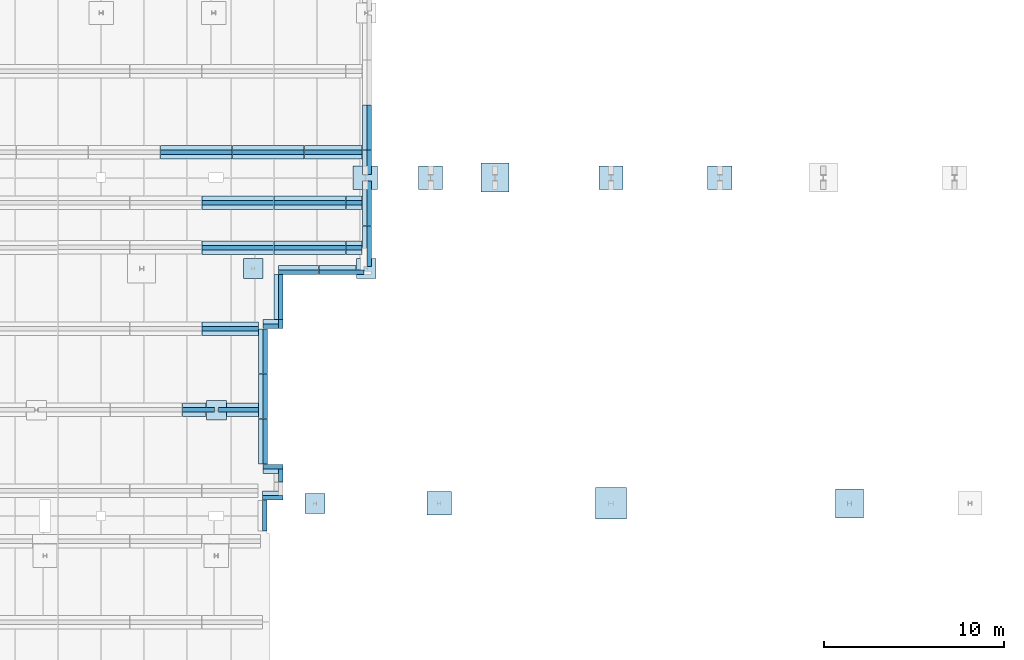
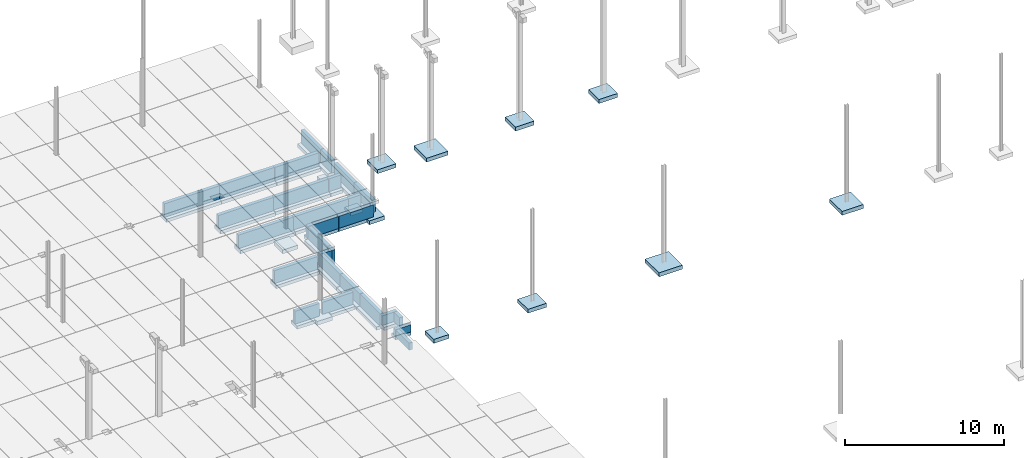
# One storey, part 11 of 59: 65 footings.
"""IFC2X3 building model written with IfcOpenShell, lengths in metres."""

import ifcopenshell
import ifcopenshell.guid

model = None  # the IFC model being written
_history = None  # IfcOwnerHistory: only IFC2X3 demands one
_inside = {}  # id of a spatial element -> (the spatial element, [elements in it])
_under = {}  # id of a project, library or spatial element -> (it, [spatial elements below it])
_declared = {}  # id of a project -> (the project, [libraries it declares])
_typed = {}  # id of a type object -> (the type object, [elements of that type])
_made_of = {}  # id of a material, layer set ... -> (it, [elements and type objects made of it])


def new_model(schema):
    """Start an empty IFC model of exactly this schema.

    Asked for "IFC4X3", IfcOpenShell would pick the latest addendum, in which some entities
    have other attributes; the version numbers below select the first issue.
    IFC2X3 requires an IfcOwnerHistory on every rooted entity: one is made here for all.
    """
    global model, _history
    if schema == "IFC4X3":
        model = ifcopenshell.file(schema_version=(4, 3, 0, 0))
    else:
        model = ifcopenshell.file(schema=schema)
    _inside.clear()
    _under.clear()
    _declared.clear()
    _typed.clear()
    _made_of.clear()
    _history = None
    if model.schema == "IFC2X3":
        org = make("IfcOrganization", Name="unknown")
        user = make(
            "IfcPersonAndOrganization",
            ThePerson=make("IfcPerson", FamilyName="unknown"),
            TheOrganization=org,
        )
        app = make(
            "IfcApplication",
            ApplicationDeveloper=org,
            Version="unknown",
            ApplicationFullName="unknown",
            ApplicationIdentifier="unknown",
        )
        _history = make(
            "IfcOwnerHistory",
            OwningUser=user,
            OwningApplication=app,
            ChangeAction="ADDED",
            CreationDate=0,
        )
    return model


def make(cls, **values):
    """One entity of the class cls with the attributes given. An attribute that is None is left unset."""
    return model.create_entity(
        cls, **{name: value for name, value in values.items() if value is not None}
    )


def entity(cls, *values):
    """Any entity or typed value of the class cls, its attributes in the order of the schema. None: left unset."""
    e = model.create_entity(cls)
    for i, value in enumerate(values):
        if value is not None:
            e[i] = value
    return e


def rooted(cls, **values):
    """An entity with a GlobalId (a new one), such as an element, a storey or a relation."""
    return make(cls, GlobalId=ifcopenshell.guid.new(), OwnerHistory=_history, **values)


def si_unit(unit_type, name, prefix=None):
    """IfcSIUnit, for example si_unit("LENGTHUNIT", "METRE", prefix="MILLI")."""
    return make("IfcSIUnit", UnitType=unit_type, Prefix=prefix, Name=name)


def converted_unit(unit_type, name, factor, base, dimensions=None, offset=None):
    """IfcConversionBasedUnit, such as the inch: factor (a typed value) times the base unit."""
    return make(
        "IfcConversionBasedUnit"
        if offset is None
        else "IfcConversionBasedUnitWithOffset",
        ConversionOffset=offset,
        Dimensions=None
        if dimensions is None
        else entity("IfcDimensionalExponents", *dimensions),
        UnitType=unit_type,
        Name=name,
        ConversionFactor=make(
            "IfcMeasureWithUnit", ValueComponent=factor, UnitComponent=base
        ),
    )


def derived_unit(unit_type, elements):
    """IfcDerivedUnit: a product of units, each with its exponent."""
    return make(
        "IfcDerivedUnit",
        Elements=[
            make("IfcDerivedUnitElement", Unit=unit, Exponent=power)
            for unit, power in elements
        ],
        UnitType=unit_type,
    )


def assignment(units):
    """IfcUnitAssignment: the units of a project."""
    return None if units is None else make("IfcUnitAssignment", Units=units)


def point(xyz):
    """IfcCartesianPoint."""
    return None if xyz is None else make("IfcCartesianPoint", Coordinates=xyz)


def direction(xyz):
    """IfcDirection."""
    return None if xyz is None else make("IfcDirection", DirectionRatios=xyz)


def frame(location, z_axis=None, x_axis=None):
    """IfcAxis2Placement3D, a coordinate frame: its origin and axes. An axis left out is left unset."""
    return make(
        "IfcAxis2Placement3D",
        Location=point(location),
        Axis=direction(z_axis),
        RefDirection=direction(x_axis),
    )


def frame_2d(location, x_axis=None):
    """IfcAxis2Placement2D, a coordinate frame in the plane: its origin and x axis."""
    return make(
        "IfcAxis2Placement2D", Location=point(location), RefDirection=direction(x_axis)
    )


def origin():
    """The frame at (0, 0, 0) with its axes left unset."""
    return frame((0.0, 0.0, 0.0))


def origin_with_axes():
    """The frame at (0, 0, 0) with the z axis (0, 0, 1) and the x axis (1, 0, 0) written out."""
    return frame((0.0, 0.0, 0.0), z_axis=(0.0, 0.0, 1.0), x_axis=(1.0, 0.0, 0.0))


def place(relative_to, where):
    """IfcLocalPlacement: puts the frame where relative to a parent placement (None: the world)."""
    return make(
        "IfcLocalPlacement", PlacementRelTo=relative_to, RelativePlacement=where
    )


def context(
    kind, dimensions, precision=None, world=None, true_north=None, identifier=None
):
    """IfcGeometricRepresentationContext, for example the 3D "Model" context."""
    return make(
        "IfcGeometricRepresentationContext",
        ContextIdentifier=identifier,
        ContextType=kind,
        CoordinateSpaceDimension=dimensions,
        Precision=precision,
        WorldCoordinateSystem=world,
        TrueNorth=true_north,
    )


def subcontext(parent, identifier, kind, view, scale=None):
    """IfcGeometricRepresentationSubContext, for example "Body" below "Model"."""
    return make(
        "IfcGeometricRepresentationSubContext",
        ContextIdentifier=identifier,
        ContextType=kind,
        ParentContext=parent,
        TargetScale=scale,
        TargetView=view,
    )


def project(units=None, contexts=None):
    """IfcProject with its units and contexts."""
    return rooted(
        "IfcProject",
        Name="project",
        RepresentationContexts=contexts,
        UnitsInContext=assignment(units),
    )


def spatial(cls, under=None, at=None, **own):
    """A site, building, storey or space (cls), placed at a placement, below another one or the project."""
    s = rooted(cls, ObjectPlacement=at, **own)
    if under is not None:
        _under.setdefault(under.id(), (under, []))[1].append(s)
    return s


def profile(cls, at=None, kind="AREA", **sizes):
    """A parametric profile (cls). Its sizes go by their IFC names, for example OverallWidth=200.0."""
    return make(cls, ProfileType=kind, Position=at, **sizes)


def rectangle(**sizes):
    """IfcRectangleProfileDef."""
    return profile("IfcRectangleProfileDef", **sizes)


def extrude(swept, where, along, depth):
    """IfcExtrudedAreaSolid: the profile swept, set in the frame where, extruded along a direction by depth."""
    return make(
        "IfcExtrudedAreaSolid",
        SweptArea=swept,
        Position=where,
        ExtrudedDirection=direction(along),
        Depth=depth,
    )


def shape(context_of_items, identifier, shape_type, items):
    """IfcShapeRepresentation: the items that make up one representation, for example the "Body"."""
    return make(
        "IfcShapeRepresentation",
        ContextOfItems=context_of_items,
        RepresentationIdentifier=identifier,
        RepresentationType=shape_type,
        Items=items,
    )


def material(Name=None, Category=None):
    """IfcMaterial."""
    return make("IfcMaterial", Name=Name, Category=Category)


def made_of(thing, what):
    """Note that an element or type object is made of a material, layer set ...; save() writes the relation."""
    if what is not None:
        _made_of.setdefault(what.id(), (what, []))[1].append(thing)
    return thing


def element(
    cls,
    number,
    at=None,
    inside=None,
    cuts=None,
    type_object=None,
    material=None,
    context=None,
    identifier="Body",
    shape_type=None,
    held_by="IfcProductDefinitionShape",
    body=None,
    shapes=None,
    **own,
):
    """One element of the class cls, such as IfcWall. Its Tag is "e" and its number.

    at: its placement. inside: the storey or other place that contains it. cuts: it is an
    opening in that element (IfcRelVoidsElement). A single representation is given by context,
    identifier, shape_type and body (its items); several are given by shapes. held_by: the class
    of the entity that holds the representations. save() writes the other relations.
    """
    e = rooted(cls, Tag="e%d" % number, ObjectPlacement=at, **own)
    if body is not None:
        shapes = [shape(context, identifier, shape_type, body)]
    if shapes is not None:
        e.Representation = make(held_by, Representations=shapes)
    if inside is not None:
        _inside.setdefault(inside.id(), (inside, []))[1].append(e)
    if cuts is not None:
        rooted(
            "IfcRelVoidsElement", RelatingBuildingElement=cuts, RelatedOpeningElement=e
        )
    if type_object is not None:
        _typed.setdefault(type_object.id(), (type_object, []))[1].append(e)
    return made_of(e, material)


def aggregate(whole, parts):
    """IfcRelAggregates: a whole, such as a stair, and the parts it consists of."""
    return rooted("IfcRelAggregates", RelatingObject=whole, RelatedObjects=parts)


def save(model, path):
    """Write the relations noted so far, then the file.

    IfcRelAggregates (storeys below a building ...), IfcRelContainedInSpatialStructure (elements
    in a storey), IfcRelDefinesByType, IfcRelAssociatesMaterial and IfcRelDeclares: one each for
    every whole, place, type object, material and project.
    """
    for whole, parts in _under.values():
        aggregate(whole, parts)
    for where, things in _inside.values():
        rooted(
            "IfcRelContainedInSpatialStructure",
            RelatedElements=things,
            RelatingStructure=where,
        )
    for kind, things in _typed.values():
        rooted("IfcRelDefinesByType", RelatedObjects=things, RelatingType=kind)
    for what, things in _made_of.values():
        rooted("IfcRelAssociatesMaterial", RelatedObjects=things, RelatingMaterial=what)
    for by, libraries in _declared.values():
        rooted("IfcRelDeclares", RelatingContext=by, RelatedDefinitions=libraries)
    model.write(path)


model = new_model("IFC2X3")

# Units and contexts
model_context = context("Model", 3, precision=1e-05, world=origin())
body_context = subcontext(model_context, "Body", "Model", "MODEL_VIEW")
ifc_project = project(units=[si_unit("LENGTHUNIT", "METRE"), si_unit("AREAUNIT", "SQUARE_METRE"), si_unit("VOLUMEUNIT", "CUBIC_METRE"), si_unit("MASSUNIT", "GRAM", prefix="KILO"), converted_unit("PLANEANGLEUNIT", "DEGREE", entity("IfcPlaneAngleMeasure", 0.0174532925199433), si_unit("PLANEANGLEUNIT", "RADIAN"), dimensions=[0, 0, 0, 0, 0, 0, 0]), derived_unit("THERMALTRANSMITTANCEUNIT", [(si_unit("POWERUNIT", "WATT"), 1), (si_unit("THERMODYNAMICTEMPERATUREUNIT", "KELVIN"), -1), (si_unit("LENGTHUNIT", "METRE"), -2)]), derived_unit("VOLUMETRICFLOWRATEUNIT", [(si_unit("LENGTHUNIT", "METRE"), 3), (converted_unit("TIMEUNIT", "hour", entity("IfcTimeMeasure", 3600.0), si_unit("TIMEUNIT", "SECOND"), dimensions=[0, 0, 1, 0, 0, 0, 0]), -1), (si_unit("LENGTHUNIT", "METRE"), -1)])], contexts=[model_context])

# Site, building, storey
site_placement = place(None, origin())
site = spatial("IfcSite", under=ifc_project, at=site_placement, Name="TWP_Speiseverteilzentrum SBW VZ II", CompositionType="ELEMENT")
building_placement = place(site_placement, origin())
building = spatial("IfcBuilding", under=site, at=building_placement, Name="Speiseverteilzentrum SBW VZ II", CompositionType="ELEMENT")
storey_placement = place(building_placement, frame((0.0, 0.0, 1.7307)))
storey = spatial("IfcBuildingStorey", under=building, at=storey_placement, Name="EG_Produktion_FFB", CompositionType="ELEMENT", Elevation=1.7307)

# Footings
ifc_material_1 = material(Name="Stahlbeton")
footing_1_placement = place(storey_placement, frame((81.105, 69.6001031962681, -2.25)))
element("IfcFooting", 1, at=footing_1_placement, inside=storey, material=ifc_material_1, Name="Stb.-Einzelfundament", ObjectType="COLUMN_FOUNDATION", PredefinedType="USERDEFINED", context=body_context, shape_type="SweptSolid", body=[
    extrude(rectangle(XDim=1.55, YDim=1.6, at=frame_2d((0.775, 0.8), x_axis=(1.0, 0.0))), origin_with_axes(), (0.0, 0.0, 1.0), 0.3),
])
ifc_material_2 = material(Name="Stahlbeton")
footing_2_placement = place(storey_placement, frame((87.6516307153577, 69.7501031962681, -2.25)))
element("IfcFooting", 2, at=footing_2_placement, inside=storey, material=ifc_material_2, Name="Stb.-Einzelfundament", ObjectType="COLUMN_FOUNDATION", PredefinedType="USERDEFINED", context=body_context, shape_type="SweptSolid", body=[
    extrude(rectangle(XDim=1.35, YDim=1.3, at=frame_2d((0.675, 0.65), x_axis=(1.0, 0.0))), origin_with_axes(), (0.0, 0.0, 1.0), 0.3),
])
ifc_material_3 = material(Name="Stahlbeton")
footing_3_placement = place(storey_placement, frame((93.7000000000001, 69.7501031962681, -2.25)))
element("IfcFooting", 3, at=footing_3_placement, inside=storey, material=ifc_material_3, Name="Stb.-Einzelfundament", ObjectType="COLUMN_FOUNDATION", PredefinedType="USERDEFINED", context=body_context, shape_type="SweptSolid", body=[
    extrude(rectangle(XDim=1.35, YDim=1.3, at=frame_2d((0.675, 0.65), x_axis=(1.0, 0.0))), origin_with_axes(), (0.0, 0.0, 1.0), 0.3),
])
ifc_material_4 = material(Name="Stahlbeton")
footing_4_placement = place(storey_placement, frame((67.8995010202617, 64.7945685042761, -1.75)))
element("IfcFooting", 4, at=footing_4_placement, inside=storey, material=ifc_material_4, Name="Stb.-Einzelfundament", ObjectType="COLUMN_FOUNDATION", PredefinedType="USERDEFINED", context=body_context, shape_type="SweptSolid", body=[
    extrude(rectangle(XDim=1.1, YDim=1.09999999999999, at=frame_2d((0.55, 0.549999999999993), x_axis=(1.0, 0.0))), origin_with_axes(), (0.0, 0.0, 1.0), 0.3),
])
ifc_material_5 = material(Name="Stahlbeton")
footing_5_placement = place(storey_placement, frame((65.8544595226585, 56.9296420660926, -1.75)))
element("IfcFooting", 5, at=footing_5_placement, inside=storey, material=ifc_material_5, Name="Stb.-Einzelfundament", ObjectType="COLUMN_FOUNDATION", PredefinedType="USERDEFINED", context=body_context, shape_type="SweptSolid", body=[
    extrude(rectangle(XDim=1.1, YDim=1.1, at=frame_2d((0.55, 0.55), x_axis=(1.0, 0.0))), origin_with_axes(), (0.0, 0.0, 1.0), 0.3),
])
ifc_material_6 = material(Name="Stahlbeton")
footing_6_placement = place(storey_placement, frame((71.3249999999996, 51.7498968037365, -1.9)))
element("IfcFooting", 6, at=footing_6_placement, inside=storey, material=ifc_material_6, Name="Stb.-Einzelfundament", ObjectType="COLUMN_FOUNDATION", PredefinedType="USERDEFINED", context=body_context, shape_type="SweptSolid", body=[
    extrude(rectangle(XDim=1.1, YDim=1.1, at=frame_2d((0.55, 0.55), x_axis=(1.0, 0.0))), origin_with_axes(), (0.0, 0.0, 1.0), 0.3),
])
ifc_material_7 = material(Name="Stahlbeton")
footing_7_placement = place(storey_placement, frame((78.0999999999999, 51.6500000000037, -1.9)))
element("IfcFooting", 7, at=footing_7_placement, inside=storey, material=ifc_material_7, Name="Stb.-Einzelfundament", ObjectType="COLUMN_FOUNDATION", PredefinedType="USERDEFINED", context=body_context, shape_type="SweptSolid", body=[
    extrude(rectangle(XDim=1.35, YDim=1.3, at=frame_2d((0.675, 0.65), x_axis=(1.0, 0.0))), origin_with_axes(), (0.0, 0.0, 1.0), 0.3),
])
ifc_material_8 = material(Name="Stahlbeton")
footing_8_placement = place(storey_placement, frame((87.4766307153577, 51.4250000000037, -2.25)))
element("IfcFooting", 8, at=footing_8_placement, inside=storey, material=ifc_material_8, Name="Stb.-Einzelfundament", ObjectType="COLUMN_FOUNDATION", PredefinedType="USERDEFINED", context=body_context, shape_type="SweptSolid", body=[
    extrude(rectangle(XDim=1.7, YDim=1.75, at=frame_2d((0.85, 0.875), x_axis=(1.0, 0.0))), origin_with_axes(), (0.0, 0.0, 1.0), 0.3),
])
ifc_material_9 = material(Name="Stahlbeton")
footing_9_placement = place(storey_placement, frame((100.8, 51.4997343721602, -2.25)))
element("IfcFooting", 9, at=footing_9_placement, inside=storey, material=ifc_material_9, Name="Stb.-Einzelfundament", ObjectType="COLUMN_FOUNDATION", PredefinedType="USERDEFINED", context=body_context, shape_type="SweptSolid", body=[
    extrude(rectangle(XDim=1.55, YDim=1.6, at=frame_2d((0.775, 0.8), x_axis=(1.0, 0.0))), origin_with_axes(), (0.0, 0.0, 1.0), 0.3),
])
ifc_material_10 = material(Name="Stahlbetonfertigteil")
footing_10_placement = place(storey_placement, frame((74.7750000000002, 74.427433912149, -1.45), z_axis=(0.0, 0.0, 1.0), x_axis=(0.0, -1.0, 0.0)))
element("IfcFooting", 10, at=footing_10_placement, inside=storey, material=ifc_material_10, Name="Stahlbetonfertigteilfundament", PredefinedType="STRIP_FOOTING", context=body_context, shape_type="SweptSolid", body=[
    extrude(rectangle(XDim=0.25, YDim=0.98, at=frame_2d((0.125, 0.49), x_axis=(1.0, 0.0))), frame((0.0, 0.0, 0.0), z_axis=(1.0, 0.0, 0.0), x_axis=(0.0, 1.0, 0.0)), (0.0, 0.0, 1.0), 2.48),
])
ifc_material_11 = material(Name="Stahlbetonfertigteil")
footing_11_placement = place(storey_placement, frame((74.5250000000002, 74.427433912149, -1.7), z_axis=(0.0, 0.0, 1.0), x_axis=(0.0, -1.0, 0.0)))
element("IfcFooting", 11, at=footing_11_placement, inside=storey, material=ifc_material_11, Name="Stahlbetonfertigteilfundament", PredefinedType="STRIP_FOOTING", context=body_context, shape_type="SweptSolid", body=[
    extrude(rectangle(XDim=0.5, YDim=0.25, at=frame_2d((0.25, 0.125), x_axis=(1.0, 0.0))), frame((0.0, 0.0, 0.0), z_axis=(1.0, 0.0, 0.0), x_axis=(0.0, 1.0, 0.0)), (0.0, 0.0, 1.0), 2.48),
])
ifc_material_12 = material(Name="Stahlbetonfertigteil")
footing_12_placement = place(storey_placement, frame((69.8500000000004, 65.0049999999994, -1.4), z_axis=(0.0, 0.0, 1.0), x_axis=(0.0, -1.0, 0.0)))
element("IfcFooting", 12, at=footing_12_placement, inside=storey, material=ifc_material_12, Name="Stahlbetonfertigteilfundament", PredefinedType="STRIP_FOOTING", context=body_context, shape_type="SweptSolid", body=[
    extrude(rectangle(XDim=0.25, YDim=0.93, at=frame_2d((0.125, 0.465), x_axis=(1.0, 0.0))), frame((0.0, 0.0, 0.0), z_axis=(1.0, 0.0, 0.0), x_axis=(0.0, 1.0, 0.0)), (0.0, 0.0, 1.0), 2.47499999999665),
])
ifc_material_13 = material(Name="Stahlbetonfertigteil")
footing_13_placement = place(storey_placement, frame((69.6000000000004, 65.0049999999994, -1.65), z_axis=(0.0, 0.0, 1.0), x_axis=(0.0, -1.0, 0.0)))
element("IfcFooting", 13, at=footing_13_placement, inside=storey, material=ifc_material_13, Name="Stahlbetonfertigteilfundament", PredefinedType="STRIP_FOOTING", context=body_context, shape_type="SweptSolid", body=[
    extrude(rectangle(XDim=0.5, YDim=0.25, at=frame_2d((0.25, 0.125), x_axis=(1.0, 0.0))), frame((0.0, 0.0, 0.0), z_axis=(1.0, 0.0, 0.0), x_axis=(0.0, 1.0, 0.0)), (0.0, 0.0, 1.0), 2.47499999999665),
])
ifc_material_14 = material(Name="Stahlbetonfertigteil")
footing_14_placement = place(storey_placement, frame((69.0000000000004, 56.9900000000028, -1.4), z_axis=(0.0, 0.0, 1.0), x_axis=(0.0, -1.0, 0.0)))
element("IfcFooting", 14, at=footing_14_placement, inside=storey, material=ifc_material_14, Name="Stahlbetonfertigteilfundament", PredefinedType="STRIP_FOOTING", context=body_context, shape_type="SweptSolid", body=[
    extrude(rectangle(XDim=0.25, YDim=0.93, at=frame_2d((0.125, 0.465), x_axis=(1.0, 0.0))), frame((0.0, 0.0, 0.0), z_axis=(1.0, 0.0, 0.0), x_axis=(0.0, 1.0, 0.0)), (0.0, 0.0, 1.0), 2.51000000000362),
])
ifc_material_15 = material(Name="Stahlbetonfertigteil")
footing_15_placement = place(storey_placement, frame((69.0000000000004, 59.4900000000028, -1.4), z_axis=(0.0, 0.0, 1.0), x_axis=(0.0, -1.0, 0.0)))
element("IfcFooting", 15, at=footing_15_placement, inside=storey, material=ifc_material_15, Name="Stahlbetonfertigteilfundament", PredefinedType="STRIP_FOOTING", context=body_context, shape_type="SweptSolid", body=[
    extrude(rectangle(XDim=0.25, YDim=0.93, at=frame_2d((0.125, 0.465), x_axis=(1.0, 0.0))), frame((0.0, 0.0, 0.0), z_axis=(1.0, 0.0, 0.0), x_axis=(0.0, 1.0, 0.0)), (0.0, 0.0, 1.0), 2.48),
])
ifc_material_16 = material(Name="Stahlbetonfertigteil")
footing_16_placement = place(storey_placement, frame((69.0000000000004, 61.9900000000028, -1.4), z_axis=(0.0, 0.0, 1.0), x_axis=(0.0, -1.0, 0.0)))
element("IfcFooting", 16, at=footing_16_placement, inside=storey, material=ifc_material_16, Name="Stahlbetonfertigteilfundament", PredefinedType="STRIP_FOOTING", context=body_context, shape_type="SweptSolid", body=[
    extrude(rectangle(XDim=0.25, YDim=0.93, at=frame_2d((0.125, 0.465), x_axis=(1.0, 0.0))), frame((0.0, 0.0, 0.0), z_axis=(1.0, 0.0, 0.0), x_axis=(0.0, 1.0, 0.0)), (0.0, 0.0, 1.0), 2.48),
])
ifc_material_17 = material(Name="Stahlbetonfertigteil")
footing_17_placement = place(storey_placement, frame((68.7500000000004, 61.9900000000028, -1.65), z_axis=(0.0, 0.0, 1.0), x_axis=(0.0, -1.0, 0.0)))
element("IfcFooting", 17, at=footing_17_placement, inside=storey, material=ifc_material_17, Name="Stahlbetonfertigteilfundament", PredefinedType="STRIP_FOOTING", context=body_context, shape_type="SweptSolid", body=[
    extrude(rectangle(XDim=0.5, YDim=0.25, at=frame_2d((0.25, 0.125), x_axis=(1.0, 0.0))), frame((0.0, 0.0, 0.0), z_axis=(1.0, 0.0, 0.0), x_axis=(0.0, 1.0, 0.0)), (0.0, 0.0, 1.0), 2.48),
])
ifc_material_18 = material(Name="Stahlbetonfertigteil")
footing_18_placement = place(storey_placement, frame((68.7500000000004, 59.4900000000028, -1.65), z_axis=(0.0, 0.0, 1.0), x_axis=(0.0, -1.0, 0.0)))
element("IfcFooting", 18, at=footing_18_placement, inside=storey, material=ifc_material_18, Name="Stahlbetonfertigteilfundament", PredefinedType="STRIP_FOOTING", context=body_context, shape_type="SweptSolid", body=[
    extrude(rectangle(XDim=0.5, YDim=0.25, at=frame_2d((0.25, 0.125), x_axis=(1.0, 0.0))), frame((0.0, 0.0, 0.0), z_axis=(1.0, 0.0, 0.0), x_axis=(0.0, 1.0, 0.0)), (0.0, 0.0, 1.0), 2.48),
])
ifc_material_19 = material(Name="Stahlbetonfertigteil")
footing_19_placement = place(storey_placement, frame((68.7500000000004, 56.9900000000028, -1.65), z_axis=(0.0, 0.0, 1.0), x_axis=(0.0, -1.0, 0.0)))
element("IfcFooting", 19, at=footing_19_placement, inside=storey, material=ifc_material_19, Name="Stahlbetonfertigteilfundament", PredefinedType="STRIP_FOOTING", context=body_context, shape_type="SweptSolid", body=[
    extrude(rectangle(XDim=0.5, YDim=0.25, at=frame_2d((0.25, 0.125), x_axis=(1.0, 0.0))), frame((0.0, 0.0, 0.0), z_axis=(1.0, 0.0, 0.0), x_axis=(0.0, 1.0, 0.0)), (0.0, 0.0, 1.0), 2.51000000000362),
])
ifc_material_20 = material(Name="Stahlbetonfertigteil")
footing_20_placement = place(storey_placement, frame((72.0800000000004, 65.5249999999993, -1.65), z_axis=(0.0, 0.0, 1.0), x_axis=(-1.0, 2.93648513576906e-14, 0.0)))
element("IfcFooting", 20, at=footing_20_placement, inside=storey, material=ifc_material_20, Name="Stahlbetonfertigteilfundament", PredefinedType="STRIP_FOOTING", context=body_context, shape_type="SweptSolid", body=[
    extrude(rectangle(XDim=0.5, YDim=0.25, at=frame_2d((0.25, 0.125), x_axis=(1.0, 0.0))), frame((0.0, 0.0, 0.0), z_axis=(1.0, 0.0, 0.0), x_axis=(0.0, 1.0, 0.0)), (0.0, 0.0, 1.0), 2.23000000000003),
])
ifc_material_21 = material(Name="Stahlbetonfertigteil")
footing_21_placement = place(storey_placement, frame((72.0800000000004, 65.2749999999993, -1.4), z_axis=(0.0, 0.0, 1.0), x_axis=(-1.0, 2.28393288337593e-14, 0.0)))
element("IfcFooting", 21, at=footing_21_placement, inside=storey, material=ifc_material_21, Name="Stahlbetonfertigteilfundament", PredefinedType="STRIP_FOOTING", context=body_context, shape_type="SweptSolid", body=[
    extrude(rectangle(XDim=0.25, YDim=0.93, at=frame_2d((0.125, 0.465), x_axis=(1.0, 0.0))), frame((0.0, 0.0, 0.0), z_axis=(1.0, 0.0, 0.0), x_axis=(0.0, 1.0, 0.0)), (0.0, 0.0, 1.0), 2.23000000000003),
])
ifc_material_22 = material(Name="Stahlbetonfertigteil")
footing_22_placement = place(storey_placement, frame((70.1000000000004, 62.5100000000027, -1.65), z_axis=(0.0, 0.0, 1.0), x_axis=(-1.0, 5.29160553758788e-14, 0.0)))
element("IfcFooting", 22, at=footing_22_placement, inside=storey, material=ifc_material_22, Name="Stahlbetonfertigteilfundament", PredefinedType="STRIP_FOOTING", context=body_context, shape_type="SweptSolid", body=[
    extrude(rectangle(XDim=0.5, YDim=0.25, at=frame_2d((0.25, 0.125), x_axis=(1.0, 0.0))), frame((0.0, 0.0, 0.0), z_axis=(1.0, 0.0, 0.0), x_axis=(0.0, 1.0, 0.0)), (0.0, 0.0, 1.0), 1.10000000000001),
])
ifc_material_23 = material(Name="Stahlbetonfertigteil")
footing_23_placement = place(storey_placement, frame((69.8500000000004, 62.5100000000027, -1.4), z_axis=(0.0, 0.0, 1.0), x_axis=(0.0, -1.0, 0.0)))
element("IfcFooting", 23, at=footing_23_placement, inside=storey, material=ifc_material_23, Name="Stahlbetonfertigteilfundament", PredefinedType="STRIP_FOOTING", context=body_context, shape_type="SweptSolid", body=[
    extrude(rectangle(XDim=0.25, YDim=0.93, at=frame_2d((0.125, 0.465), x_axis=(1.0, 0.0))), frame((0.0, 0.0, 0.0), z_axis=(1.0, 0.0, 0.0), x_axis=(0.0, 1.0, 0.0)), (0.0, 0.0, 1.0), 0.5),
])
ifc_material_24 = material(Name="Stahlbetonfertigteil")
footing_24_placement = place(storey_placement, frame((69.8500000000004, 62.2600000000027, -1.4), z_axis=(0.0, 0.0, 1.0), x_axis=(-1.0, 5.13597008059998e-14, 0.0)))
element("IfcFooting", 24, at=footing_24_placement, inside=storey, material=ifc_material_24, Name="Stahlbetonfertigteilfundament", PredefinedType="STRIP_FOOTING", context=body_context, shape_type="SweptSolid", body=[
    extrude(rectangle(XDim=0.25, YDim=0.93, at=frame_2d((0.125, 0.465), x_axis=(1.0, 0.0))), frame((0.0, 0.0, 0.0), z_axis=(1.0, 0.0, 0.0), x_axis=(0.0, 1.0, 0.0)), (0.0, 0.0, 1.0), 0.850000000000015),
])
ifc_material_25 = material(Name="Stahlbetonfertigteil")
footing_25_placement = place(storey_placement, frame((69.0000000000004, 54.2099999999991, -1.2), z_axis=(0.0, 0.0, 1.0), x_axis=(1.0, 5.29160553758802e-14, 0.0)))
element("IfcFooting", 25, at=footing_25_placement, inside=storey, material=ifc_material_25, Name="Stahlbetonfertigteilfundament", PredefinedType="STRIP_FOOTING", context=body_context, shape_type="SweptSolid", body=[
    extrude(rectangle(XDim=0.25, YDim=0.73, at=frame_2d((0.125, 0.365), x_axis=(1.0, 0.0))), frame((0.0, 0.0, 0.0), z_axis=(1.0, 0.0, 0.0), x_axis=(0.0, 1.0, 0.0)), (0.0, 0.0, 1.0), 1.09999999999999),
])
ifc_material_26 = material(Name="Stahlbetonfertigteil")
footing_26_placement = place(storey_placement, frame((69.8500000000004, 54.2099999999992, -1.2), z_axis=(0.0, 0.0, 1.0), x_axis=(0.0, -1.0, 0.0)))
element("IfcFooting", 26, at=footing_26_placement, inside=storey, material=ifc_material_26, Name="Stahlbetonfertigteilfundament", PredefinedType="STRIP_FOOTING", context=body_context, shape_type="SweptSolid", body=[
    extrude(rectangle(XDim=0.25, YDim=0.73, at=frame_2d((0.125, 0.365), x_axis=(1.0, 0.0))), frame((0.0, 0.0, 0.0), z_axis=(1.0, 0.0, 0.0), x_axis=(0.0, 1.0, 0.0)), (0.0, 0.0, 1.0), 0.732499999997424),
])
ifc_material_27 = material(Name="Stahlbetonfertigteil")
footing_27_placement = place(storey_placement, frame((69.0000000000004, 53.9599999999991, -1.45), z_axis=(0.0, 0.0, 1.0), x_axis=(1.0, 5.29160553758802e-14, 0.0)))
element("IfcFooting", 27, at=footing_27_placement, inside=storey, material=ifc_material_27, Name="Stahlbetonfertigteilfundament", PredefinedType="STRIP_FOOTING", context=body_context, shape_type="SweptSolid", body=[
    extrude(rectangle(XDim=0.5, YDim=0.25, at=frame_2d((0.25, 0.125), x_axis=(1.0, 0.0))), frame((0.0, 0.0, 0.0), z_axis=(1.0, 0.0, 0.0), x_axis=(0.0, 1.0, 0.0)), (0.0, 0.0, 1.0), 1.09999999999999),
])
ifc_material_28 = material(Name="Stahlbetonfertigteil")
footing_28_placement = place(storey_placement, frame((68.9750000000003, 52.4550000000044, -1.02), z_axis=(0.0, 0.0, 1.0), x_axis=(0.0, -1.0, 0.0)))
element("IfcFooting", 28, at=footing_28_placement, inside=storey, material=ifc_material_28, Name="Stahlbetonfertigteilfundament", PredefinedType="STRIP_FOOTING", context=body_context, shape_type="SweptSolid", body=[
    extrude(rectangle(XDim=0.25, YDim=0.55, at=frame_2d((0.125, 0.275), x_axis=(1.0, 0.0))), frame((0.0, 0.0, 0.0), z_axis=(1.0, 0.0, 0.0), x_axis=(0.0, 1.0, 0.0)), (0.0, 0.0, 1.0), 1.67500000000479),
])
ifc_material_29 = material(Name="Stahlbetonfertigteil")
footing_29_placement = place(storey_placement, frame((70.1000000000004, 52.7250000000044, -1.02), z_axis=(0.0, 0.0, 1.0), x_axis=(-1.0, 5.17401430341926e-14, 0.0)))
element("IfcFooting", 29, at=footing_29_placement, inside=storey, material=ifc_material_29, Name="Stahlbetonfertigteilfundament", PredefinedType="STRIP_FOOTING", context=body_context, shape_type="SweptSolid", body=[
    extrude(rectangle(XDim=0.25, YDim=0.55, at=frame_2d((0.125, 0.275), x_axis=(1.0, 0.0))), frame((0.0, 0.0, 0.0), z_axis=(1.0, 0.0, 0.0), x_axis=(0.0, 1.0, 0.0)), (0.0, 0.0, 1.0), 1.12500000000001),
])
ifc_material_30 = material(Name="Stahlbetonfertigteil")
footing_30_placement = place(storey_placement, frame((70.1000000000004, 52.9750000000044, -1.27), z_axis=(0.0, 0.0, 1.0), x_axis=(-1.0, 5.17401430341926e-14, 0.0)))
element("IfcFooting", 30, at=footing_30_placement, inside=storey, material=ifc_material_30, Name="Stahlbetonfertigteilfundament", PredefinedType="STRIP_FOOTING", context=body_context, shape_type="SweptSolid", body=[
    extrude(rectangle(XDim=0.5, YDim=0.25, at=frame_2d((0.25, 0.125), x_axis=(1.0, 0.0))), frame((0.0, 0.0, 0.0), z_axis=(1.0, 0.0, 0.0), x_axis=(0.0, 1.0, 0.0)), (0.0, 0.0, 1.0), 1.12500000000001),
])
ifc_material_31 = material(Name="Stahlbetonfertigteil")
footing_31_placement = place(storey_placement, frame((63.2999999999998, 71.4254127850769, -1.75)))
element("IfcFooting", 31, at=footing_31_placement, inside=storey, material=ifc_material_31, Name="Stahlbetonfertigteilfundament", PredefinedType="STRIP_FOOTING", context=body_context, shape_type="SweptSolid", body=[
    extrude(rectangle(XDim=0.75, YDim=0.25, at=frame_2d((0.375, 0.125), x_axis=(1.0, 0.0))), frame((0.0, 0.0, 0.0), z_axis=(1.0, 0.0, 0.0), x_axis=(0.0, 1.0, 0.0)), (0.0, 0.0, 1.0), 3.98),
])
ifc_material_32 = material(Name="Stahlbetonfertigteil")
footing_32_placement = place(storey_placement, frame((63.2999999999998, 71.6754127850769, -1.5)))
element("IfcFooting", 32, at=footing_32_placement, inside=storey, material=ifc_material_32, Name="Stahlbetonfertigteilfundament", PredefinedType="STRIP_FOOTING", context=body_context, shape_type="SweptSolid", body=[
    extrude(rectangle(XDim=0.25, YDim=1.03, at=frame_2d((0.125, 0.515), x_axis=(1.0, 0.0))), frame((0.0, 0.0, 0.0), z_axis=(1.0, 0.0, 0.0), x_axis=(0.0, 1.0, 0.0)), (0.0, 0.0, 1.0), 3.98),
])
ifc_material_33 = material(Name="Stahlbetonfertigteil")
footing_33_placement = place(storey_placement, frame((67.2999999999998, 71.4254127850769, -1.75)))
element("IfcFooting", 33, at=footing_33_placement, inside=storey, material=ifc_material_33, Name="Stahlbetonfertigteilfundament", PredefinedType="STRIP_FOOTING", context=body_context, shape_type="SweptSolid", body=[
    extrude(rectangle(XDim=0.75, YDim=0.25, at=frame_2d((0.375, 0.125), x_axis=(1.0, 0.0))), frame((0.0, 0.0, 0.0), z_axis=(1.0, 0.0, 0.0), x_axis=(0.0, 1.0, 0.0)), (0.0, 0.0, 1.0), 3.98),
])
ifc_material_34 = material(Name="Stahlbetonfertigteil")
footing_34_placement = place(storey_placement, frame((67.2999999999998, 71.6754127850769, -1.5)))
element("IfcFooting", 34, at=footing_34_placement, inside=storey, material=ifc_material_34, Name="Stahlbetonfertigteilfundament", PredefinedType="STRIP_FOOTING", context=body_context, shape_type="SweptSolid", body=[
    extrude(rectangle(XDim=0.25, YDim=1.03, at=frame_2d((0.125, 0.515), x_axis=(1.0, 0.0))), frame((0.0, 0.0, 0.0), z_axis=(1.0, 0.0, 0.0), x_axis=(0.0, 1.0, 0.0)), (0.0, 0.0, 1.0), 3.98),
])
ifc_material_35 = material(Name="Stahlbetonfertigteil")
footing_35_placement = place(storey_placement, frame((69.5999999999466, 66.3752063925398, -1.45)))
element("IfcFooting", 35, at=footing_35_placement, inside=storey, material=ifc_material_35, Name="Stahlbetonfertigteilfundament", PredefinedType="STRIP_FOOTING", context=body_context, shape_type="SweptSolid", body=[
    extrude(rectangle(XDim=0.25, YDim=0.98, at=frame_2d((0.125, 0.49), x_axis=(1.0, 0.0))), frame((0.0, 0.0, 0.0), z_axis=(1.0, 0.0, 0.0), x_axis=(0.0, 1.0, 0.0)), (0.0, 0.0, 1.0), 3.98),
])
ifc_material_36 = material(Name="Stahlbetonfertigteil")
footing_36_placement = place(storey_placement, frame((69.5999999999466, 66.1252063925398, -1.7)))
element("IfcFooting", 36, at=footing_36_placement, inside=storey, material=ifc_material_36, Name="Stahlbetonfertigteilfundament", PredefinedType="STRIP_FOOTING", context=body_context, shape_type="SweptSolid", body=[
    extrude(rectangle(XDim=0.75, YDim=0.25, at=frame_2d((0.375, 0.125), x_axis=(1.0, 0.0))), frame((0.0, 0.0, 0.0), z_axis=(1.0, 0.0, 0.0), x_axis=(0.0, 1.0, 0.0)), (0.0, 0.0, 1.0), 3.98),
])
ifc_material_37 = material(Name="Stahlbetonfertigteil")
footing_37_placement = place(storey_placement, frame((65.5999999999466, 68.6254127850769, -1.75)))
element("IfcFooting", 37, at=footing_37_placement, inside=storey, material=ifc_material_37, Name="Stahlbetonfertigteilfundament", PredefinedType="STRIP_FOOTING", context=body_context, shape_type="SweptSolid", body=[
    extrude(rectangle(XDim=0.75, YDim=0.25, at=frame_2d((0.375, 0.125), x_axis=(1.0, 0.0))), frame((0.0, 0.0, 0.0), z_axis=(1.0, 0.0, 0.0), x_axis=(0.0, 1.0, 0.0)), (0.0, 0.0, 1.0), 3.98),
])
ifc_material_38 = material(Name="Stahlbetonfertigteil")
footing_38_placement = place(storey_placement, frame((65.5999999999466, 68.8754127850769, -1.5)))
element("IfcFooting", 38, at=footing_38_placement, inside=storey, material=ifc_material_38, Name="Stahlbetonfertigteilfundament", PredefinedType="STRIP_FOOTING", context=body_context, shape_type="SweptSolid", body=[
    extrude(rectangle(XDim=0.25, YDim=1.03, at=frame_2d((0.125, 0.515), x_axis=(1.0, 0.0))), frame((0.0, 0.0, 0.0), z_axis=(1.0, 0.0, 0.0), x_axis=(0.0, 1.0, 0.0)), (0.0, 0.0, 1.0), 3.98),
])
ifc_material_39 = material(Name="Stahlbetonfertigteil")
footing_39_placement = place(storey_placement, frame((69.5999999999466, 68.6254127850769, -1.7)))
element("IfcFooting", 39, at=footing_39_placement, inside=storey, material=ifc_material_39, Name="Stahlbetonfertigteilfundament", PredefinedType="STRIP_FOOTING", context=body_context, shape_type="SweptSolid", body=[
    extrude(rectangle(XDim=0.75, YDim=0.25, at=frame_2d((0.375, 0.125), x_axis=(1.0, 0.0))), frame((0.0, 0.0, 0.0), z_axis=(1.0, 0.0, 0.0), x_axis=(0.0, 1.0, 0.0)), (0.0, 0.0, 1.0), 3.98),
])
ifc_material_40 = material(Name="Stahlbetonfertigteil")
footing_40_placement = place(storey_placement, frame((69.5999999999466, 68.8754127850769, -1.45)))
element("IfcFooting", 40, at=footing_40_placement, inside=storey, material=ifc_material_40, Name="Stahlbetonfertigteilfundament", PredefinedType="STRIP_FOOTING", context=body_context, shape_type="SweptSolid", body=[
    extrude(rectangle(XDim=0.25, YDim=0.98, at=frame_2d((0.125, 0.49), x_axis=(1.0, 0.0))), frame((0.0, 0.0, 0.0), z_axis=(1.0, 0.0, 0.0), x_axis=(0.0, 1.0, 0.0)), (0.0, 0.0, 1.0), 3.98),
])
ifc_material_41 = material(Name="Stahlbetonfertigteil")
footing_41_placement = place(storey_placement, frame((65.5999999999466, 66.1252063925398, -1.75)))
element("IfcFooting", 41, at=footing_41_placement, inside=storey, material=ifc_material_41, Name="Stahlbetonfertigteilfundament", PredefinedType="STRIP_FOOTING", context=body_context, shape_type="SweptSolid", body=[
    extrude(rectangle(XDim=0.75, YDim=0.25, at=frame_2d((0.375, 0.125), x_axis=(1.0, 0.0))), frame((0.0, 0.0, 0.0), z_axis=(1.0, 0.0, 0.0), x_axis=(0.0, 1.0, 0.0)), (0.0, 0.0, 1.0), 3.98),
])
ifc_material_42 = material(Name="Stahlbetonfertigteil")
footing_42_placement = place(storey_placement, frame((65.5999999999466, 66.3752063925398, -1.5)))
element("IfcFooting", 42, at=footing_42_placement, inside=storey, material=ifc_material_42, Name="Stahlbetonfertigteilfundament", PredefinedType="STRIP_FOOTING", context=body_context, shape_type="SweptSolid", body=[
    extrude(rectangle(XDim=0.25, YDim=1.03, at=frame_2d((0.125, 0.515), x_axis=(1.0, 0.0))), frame((0.0, 0.0, 0.0), z_axis=(1.0, 0.0, 0.0), x_axis=(0.0, 1.0, 0.0)), (0.0, 0.0, 1.0), 3.98),
])
ifc_material_43 = material(Name="Stahlbetonfertigteil")
footing_43_placement = place(storey_placement, frame((71.2999999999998, 71.6754127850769, -1.5)))
element("IfcFooting", 43, at=footing_43_placement, inside=storey, material=ifc_material_43, Name="Stahlbetonfertigteilfundament", PredefinedType="STRIP_FOOTING", context=body_context, shape_type="SweptSolid", body=[
    extrude(rectangle(XDim=0.25, YDim=1.03, at=frame_2d((0.125, 0.515), x_axis=(1.0, 0.0))), frame((0.0, 0.0, 0.0), z_axis=(1.0, 0.0, 0.0), x_axis=(0.0, 1.0, 0.0)), (0.0, 0.0, 1.0), 3.20000000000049),
])
ifc_material_44 = material(Name="Stahlbetonfertigteil")
footing_44_placement = place(storey_placement, frame((71.2999999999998, 71.4254127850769, -1.75)))
element("IfcFooting", 44, at=footing_44_placement, inside=storey, material=ifc_material_44, Name="Stahlbetonfertigteilfundament", PredefinedType="STRIP_FOOTING", context=body_context, shape_type="SweptSolid", body=[
    extrude(rectangle(XDim=0.75, YDim=0.25, at=frame_2d((0.375, 0.125), x_axis=(1.0, 0.0))), frame((0.0, 0.0, 0.0), z_axis=(1.0, 0.0, 0.0), x_axis=(0.0, 1.0, 0.0)), (0.0, 0.0, 1.0), 3.20000000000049),
])
ifc_material_45 = material(Name="Stahlbetonfertigteil")
footing_45_placement = place(storey_placement, frame((73.5999999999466, 66.3752063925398, -1.4)))
element("IfcFooting", 45, at=footing_45_placement, inside=storey, material=ifc_material_45, Name="Stahlbetonfertigteilfundament", PredefinedType="STRIP_FOOTING", context=body_context, shape_type="SweptSolid", body=[
    extrude(rectangle(XDim=0.25, YDim=0.93, at=frame_2d((0.125, 0.465), x_axis=(1.0, 0.0))), frame((0.0, 0.0, 0.0), z_axis=(1.0, 0.0, 0.0), x_axis=(0.0, 1.0, 0.0)), (0.0, 0.0, 1.0), 0.900000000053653),
])
ifc_material_46 = material(Name="Stahlbetonfertigteil")
footing_46_placement = place(storey_placement, frame((73.5999999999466, 66.1252063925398, -1.65)))
element("IfcFooting", 46, at=footing_46_placement, inside=storey, material=ifc_material_46, Name="Stahlbetonfertigteilfundament", PredefinedType="STRIP_FOOTING", context=body_context, shape_type="SweptSolid", body=[
    extrude(rectangle(XDim=0.75, YDim=0.25, at=frame_2d((0.375, 0.125), x_axis=(1.0, 0.0))), frame((0.0, 0.0, 0.0), z_axis=(1.0, 0.0, 0.0), x_axis=(0.0, 1.0, 0.0)), (0.0, 0.0, 1.0), 0.900000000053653),
])
ifc_material_47 = material(Name="Stahlbetonfertigteil")
footing_47_placement = place(storey_placement, frame((73.5999999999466, 68.8754127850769, -1.45)))
element("IfcFooting", 47, at=footing_47_placement, inside=storey, material=ifc_material_47, Name="Stahlbetonfertigteilfundament", PredefinedType="STRIP_FOOTING", context=body_context, shape_type="SweptSolid", body=[
    extrude(rectangle(XDim=0.25, YDim=0.98, at=frame_2d((0.125, 0.49), x_axis=(1.0, 0.0))), frame((0.0, 0.0, 0.0), z_axis=(1.0, 0.0, 0.0), x_axis=(0.0, 1.0, 0.0)), (0.0, 0.0, 1.0), 0.900000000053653),
])
ifc_material_48 = material(Name="Stahlbetonfertigteil")
footing_48_placement = place(storey_placement, frame((73.5999999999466, 68.6254127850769, -1.7)))
element("IfcFooting", 48, at=footing_48_placement, inside=storey, material=ifc_material_48, Name="Stahlbetonfertigteilfundament", PredefinedType="STRIP_FOOTING", context=body_context, shape_type="SweptSolid", body=[
    extrude(rectangle(XDim=0.75, YDim=0.25, at=frame_2d((0.375, 0.125), x_axis=(1.0, 0.0))), frame((0.0, 0.0, 0.0), z_axis=(1.0, 0.0, 0.0), x_axis=(0.0, 1.0, 0.0)), (0.0, 0.0, 1.0), 0.900000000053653),
])
ifc_material_49 = material(Name="Stahlbetonfertigteil")
footing_49_placement = place(storey_placement, frame((65.5999999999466, 61.6250000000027, -1.7)))
element("IfcFooting", 49, at=footing_49_placement, inside=storey, material=ifc_material_49, Name="Stahlbetonfertigteilfundament", PredefinedType="STRIP_FOOTING", context=body_context, shape_type="SweptSolid", body=[
    extrude(rectangle(XDim=0.75, YDim=0.25, at=frame_2d((0.375, 0.125), x_axis=(1.0, 0.0))), frame((0.0, 0.0, 0.0), z_axis=(1.0, 0.0, 0.0), x_axis=(0.0, 1.0, 0.0)), (0.0, 0.0, 1.0), 3.12999999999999),
])
ifc_material_50 = material(Name="Stahlbetonfertigteil")
footing_50_placement = place(storey_placement, frame((65.5999999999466, 61.8750000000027, -1.45)))
element("IfcFooting", 50, at=footing_50_placement, inside=storey, material=ifc_material_50, Name="Stahlbetonfertigteilfundament", PredefinedType="STRIP_FOOTING", context=body_context, shape_type="SweptSolid", body=[
    extrude(rectangle(XDim=0.25, YDim=0.98, at=frame_2d((0.125, 0.49), x_axis=(1.0, 0.0))), frame((0.0, 0.0, 0.0), z_axis=(1.0, 0.0, 0.0), x_axis=(0.0, 1.0, 0.0)), (0.0, 0.0, 1.0), 3.12999999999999),
])
ifc_material_51 = material(Name="Stahlbetonfertigteil")
footing_51_placement = place(storey_placement, frame((64.5194595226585, 57.1250000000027, -1.7)))
element("IfcFooting", 51, at=footing_51_placement, inside=storey, material=ifc_material_51, Name="Stahlbetonfertigteilfundament", PredefinedType="STRIP_FOOTING", context=body_context, shape_type="SweptSolid", body=[
    extrude(rectangle(XDim=0.75, YDim=0.25, at=frame_2d((0.375, 0.125), x_axis=(1.0, 0.0))), frame((0.0, 0.0, 0.0), z_axis=(1.0, 0.0, 0.0), x_axis=(0.0, 1.0, 0.0)), (0.0, 0.0, 1.0), 1.315),
])
ifc_material_52 = material(Name="Stahlbetonfertigteil")
footing_52_placement = place(storey_placement, frame((64.5194595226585, 57.3750000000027, -1.45)))
element("IfcFooting", 52, at=footing_52_placement, inside=storey, material=ifc_material_52, Name="Stahlbetonfertigteilfundament", PredefinedType="STRIP_FOOTING", context=body_context, shape_type="SweptSolid", body=[
    extrude(rectangle(XDim=0.25, YDim=0.98, at=frame_2d((0.125, 0.49), x_axis=(1.0, 0.0))), frame((0.0, 0.0, 0.0), z_axis=(1.0, 0.0, 0.0), x_axis=(0.0, 1.0, 0.0)), (0.0, 0.0, 1.0), 1.77),
])
ifc_material_53 = material(Name="Stahlbetonfertigteil")
footing_53_placement = place(storey_placement, frame((66.9744595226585, 57.1250000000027, -1.65)))
element("IfcFooting", 53, at=footing_53_placement, inside=storey, material=ifc_material_53, Name="Stahlbetonfertigteilfundament", PredefinedType="STRIP_FOOTING", context=body_context, shape_type="SweptSolid", body=[
    extrude(rectangle(XDim=0.75, YDim=0.25, at=frame_2d((0.375, 0.125), x_axis=(1.0, 0.0))), frame((0.0, 0.0, 0.0), z_axis=(1.0, 0.0, 0.0), x_axis=(0.0, 1.0, 0.0)), (0.0, 0.0, 1.0), 1.75554047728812),
])
ifc_material_54 = material(Name="Stahlbetonfertigteil")
footing_54_placement = place(storey_placement, frame((66.5194595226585, 57.3750000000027, -1.4)))
element("IfcFooting", 54, at=footing_54_placement, inside=storey, material=ifc_material_54, Name="Stahlbetonfertigteilfundament", PredefinedType="STRIP_FOOTING", context=body_context, shape_type="SweptSolid", body=[
    extrude(rectangle(XDim=0.25, YDim=0.93, at=frame_2d((0.125, 0.465), x_axis=(1.0, 0.0))), frame((0.0, 0.0, 0.0), z_axis=(1.0, 0.0, 0.0), x_axis=(0.0, 1.0, 0.0)), (0.0, 0.0, 1.0), 2.21054047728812),
])
ifc_material_55 = material(Name="Stahlbeton")
footing_55_placement = place(storey_placement, frame((74.17937918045, 64.7945685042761, -1.71)))
element("IfcFooting", 55, at=footing_55_placement, inside=storey, material=ifc_material_55, Name="Stb.-Einzelfundament", ObjectType="COLUMN_FOUNDATION", PredefinedType="USERDEFINED", context=body_context, shape_type="SweptSolid", body=[
    extrude(rectangle(XDim=1.1, YDim=1.09999999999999, at=frame_2d((0.55, 0.549999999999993), x_axis=(1.0, 0.0))), origin_with_axes(), (0.0, 0.0, 1.0), 0.3),
])
ifc_material_56 = material(Name="Stahlbetonfertigteil")
footing_56_placement = place(storey_placement, frame((74.6143848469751, 65.2749999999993, -1.4), z_axis=(0.0, 0.0, 1.0), x_axis=(-1.0, 2.604359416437e-14, 0.0)))
element("IfcFooting", 56, at=footing_56_placement, inside=storey, material=ifc_material_56, Name="Stahlbetonfertigteilfundament", PredefinedType="STRIP_FOOTING", context=body_context, shape_type="SweptSolid", body=[
    extrude(rectangle(XDim=0.25, YDim=0.93, at=frame_2d((0.125, 0.465), x_axis=(1.0, 0.0))), frame((0.0, 0.0, 0.0), z_axis=(1.0, 0.0, 0.0), x_axis=(0.0, 1.0, 0.0)), (0.0, 0.0, 1.0), 2.5143848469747),
])
ifc_material_57 = material(Name="Stahlbetonfertigteil")
footing_57_placement = place(storey_placement, frame((74.15937918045, 65.5249999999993, -1.65), z_axis=(0.0, 0.0, 1.0), x_axis=(-1.0, 3.17977471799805e-14, 0.0)))
element("IfcFooting", 57, at=footing_57_placement, inside=storey, material=ifc_material_57, Name="Stahlbetonfertigteilfundament", PredefinedType="STRIP_FOOTING", context=body_context, shape_type="SweptSolid", body=[
    extrude(rectangle(XDim=0.5, YDim=0.25, at=frame_2d((0.25, 0.125), x_axis=(1.0, 0.0))), frame((0.0, 0.0, 0.0), z_axis=(1.0, 0.0, 0.0), x_axis=(0.0, 1.0, 0.0)), (0.0, 0.0, 1.0), 2.05937918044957),
])
ifc_material_58 = material(Name="Stahlbetonfertigteil")
footing_58_placement = place(storey_placement, frame((74.7750000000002, 67.7251031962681, -1.4), z_axis=(0.0, 0.0, 1.0), x_axis=(0.0, -1.0, 0.0)))
element("IfcFooting", 58, at=footing_58_placement, inside=storey, material=ifc_material_58, Name="Stahlbetonfertigteilfundament", PredefinedType="STRIP_FOOTING", context=body_context, shape_type="SweptSolid", body=[
    extrude(rectangle(XDim=0.25, YDim=0.93, at=frame_2d((0.125, 0.465), x_axis=(1.0, 0.0))), frame((0.0, 0.0, 0.0), z_axis=(1.0, 0.0, 0.0), x_axis=(0.0, 1.0, 0.0)), (0.0, 0.0, 1.0), 2.26053469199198),
])
ifc_material_59 = material(Name="Stahlbetonfertigteil")
footing_59_placement = place(storey_placement, frame((74.5250000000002, 67.7251031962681, -1.65), z_axis=(0.0, 0.0, 1.0), x_axis=(0.0, -1.0, 0.0)))
element("IfcFooting", 59, at=footing_59_placement, inside=storey, material=ifc_material_59, Name="Stahlbetonfertigteilfundament", PredefinedType="STRIP_FOOTING", context=body_context, shape_type="SweptSolid", body=[
    extrude(rectangle(XDim=0.5, YDim=0.25, at=frame_2d((0.25, 0.125), x_axis=(1.0, 0.0))), frame((0.0, 0.0, 0.0), z_axis=(1.0, 0.0, 0.0), x_axis=(0.0, 1.0, 0.0)), (0.0, 0.0, 1.0), 1.81053469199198),
])
ifc_material_60 = material(Name="Stahlbeton")
footing_60_placement = place(storey_placement, frame((77.6250000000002, 69.7501031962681, -2.01)))
element("IfcFooting", 60, at=footing_60_placement, inside=storey, material=ifc_material_60, Name="Stb.-Einzelfundament", ObjectType="COLUMN_FOUNDATION", PredefinedType="USERDEFINED", context=body_context, shape_type="SweptSolid", body=[
    extrude(rectangle(XDim=1.35, YDim=1.3, at=frame_2d((0.675, 0.65), x_axis=(1.0, 0.0))), origin_with_axes(), (0.0, 0.0, 1.0), 0.3),
])
ifc_material_61 = material(Name="Stahlbeton")
footing_61_placement = place(storey_placement, frame((74.0000000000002, 69.7501031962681, -2.01)))
element("IfcFooting", 61, at=footing_61_placement, inside=storey, material=ifc_material_61, Name="Stb.-Einzelfundament", ObjectType="COLUMN_FOUNDATION", PredefinedType="USERDEFINED", context=body_context, shape_type="SweptSolid", body=[
    extrude(rectangle(XDim=1.35, YDim=1.3, at=frame_2d((0.675, 0.65), x_axis=(1.0, 0.0))), origin_with_axes(), (0.0, 0.0, 1.0), 0.3),
])
ifc_material_62 = material(Name="Stahlbetonfertigteil")
footing_62_placement = place(storey_placement, frame((74.5250000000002, 70.2251031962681, -1.65), z_axis=(0.0, 0.0, 1.0), x_axis=(0.0, -1.0, 0.0)))
element("IfcFooting", 62, at=footing_62_placement, inside=storey, material=ifc_material_62, Name="Stahlbetonfertigteilfundament", PredefinedType="STRIP_FOOTING", context=body_context, shape_type="SweptSolid", body=[
    extrude(rectangle(XDim=0.5, YDim=0.25, at=frame_2d((0.25, 0.125), x_axis=(1.0, 0.0))), frame((0.0, 0.0, 0.0), z_axis=(1.0, 0.0, 0.0), x_axis=(0.0, 1.0, 0.0)), (0.0, 0.0, 1.0), 2.48),
])
ifc_material_63 = material(Name="Stahlbetonfertigteil")
footing_63_placement = place(storey_placement, frame((74.7750000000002, 70.2251031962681, -1.4), z_axis=(0.0, 0.0, 1.0), x_axis=(0.0, -1.0, 0.0)))
element("IfcFooting", 63, at=footing_63_placement, inside=storey, material=ifc_material_63, Name="Stahlbetonfertigteilfundament", PredefinedType="STRIP_FOOTING", context=body_context, shape_type="SweptSolid", body=[
    extrude(rectangle(XDim=0.25, YDim=0.93, at=frame_2d((0.125, 0.465), x_axis=(1.0, 0.0))), frame((0.0, 0.0, 0.0), z_axis=(1.0, 0.0, 0.0), x_axis=(0.0, 1.0, 0.0)), (0.0, 0.0, 1.0), 2.48),
])
ifc_material_64 = material(Name="Stahlbetonfertigteil")
footing_64_placement = place(storey_placement, frame((74.5250000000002, 71.927433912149, -1.7), z_axis=(0.0, 0.0, 1.0), x_axis=(0.0, -1.0, 0.0)))
element("IfcFooting", 64, at=footing_64_placement, inside=storey, material=ifc_material_64, Name="Stahlbetonfertigteilfundament", PredefinedType="STRIP_FOOTING", context=body_context, shape_type="SweptSolid", body=[
    extrude(rectangle(XDim=0.5, YDim=0.25, at=frame_2d((0.25, 0.125), x_axis=(1.0, 0.0))), frame((0.0, 0.0, 0.0), z_axis=(1.0, 0.0, 0.0), x_axis=(0.0, 1.0, 0.0)), (0.0, 0.0, 1.0), 1.35233071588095),
])
ifc_material_65 = material(Name="Stahlbetonfertigteil")
footing_65_placement = place(storey_placement, frame((74.7750000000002, 71.927433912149, -1.45), z_axis=(0.0, 0.0, 1.0), x_axis=(0.0, -1.0, 0.0)))
element("IfcFooting", 65, at=footing_65_placement, inside=storey, material=ifc_material_65, Name="Stahlbetonfertigteilfundament", PredefinedType="STRIP_FOOTING", context=body_context, shape_type="SweptSolid", body=[
    extrude(rectangle(XDim=0.25, YDim=0.98, at=frame_2d((0.125, 0.49), x_axis=(1.0, 0.0))), frame((0.0, 0.0, 0.0), z_axis=(1.0, 0.0, 0.0), x_axis=(0.0, 1.0, 0.0)), (0.0, 0.0, 1.0), 1.35233071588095),
])

save(model, "model.ifc")
